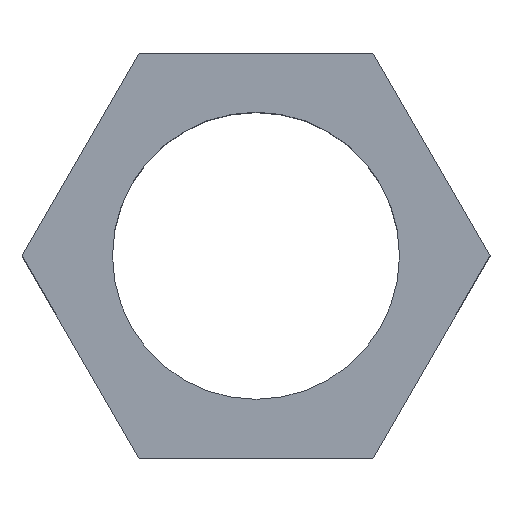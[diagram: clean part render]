
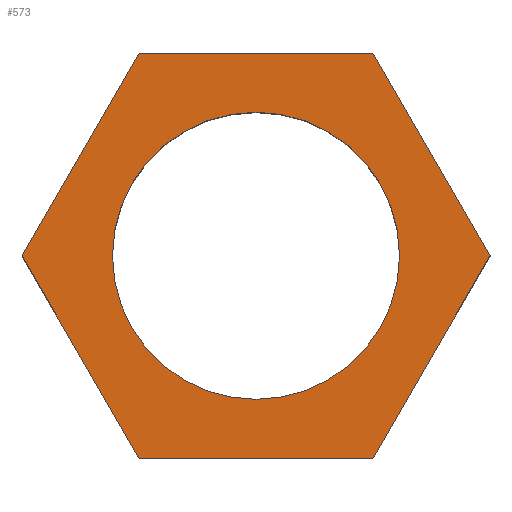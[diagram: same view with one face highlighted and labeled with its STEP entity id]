
A CAD part, top view. The second image highlights one B-rep face of the part: STEP entity #573.
In plain terms, the highlighted planar face has unit normal (0, 0, 1).
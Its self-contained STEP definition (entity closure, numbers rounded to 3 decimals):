
#24 = VERTEX_POINT('',#25);
#25 = CARTESIAN_POINT('',(13.856,0.,13.));
#32 = PLANE('',#33);
#33 = AXIS2_PLACEMENT_3D('',#34,#35,#36);
#34 = CARTESIAN_POINT('',(13.856,0.,0.));
#35 = DIRECTION('',(-0.866,-0.5,0.));
#36 = DIRECTION('',(-0.5,0.866,0.));
#44 = PLANE('',#45);
#45 = AXIS2_PLACEMENT_3D('',#46,#47,#48);
#46 = CARTESIAN_POINT('',(6.928,-12.,0.));
#47 = DIRECTION('',(-0.866,0.5,0.));
#48 = DIRECTION('',(0.5,0.866,0.));
#56 = EDGE_CURVE('',#24,#57,#59,.T.);
#57 = VERTEX_POINT('',#58);
#58 = CARTESIAN_POINT('',(6.928,12.,13.));
#59 = SURFACE_CURVE('',#60,(#64,#71),.PCURVE_S1.);
#60 = LINE('',#61,#62);
#61 = CARTESIAN_POINT('',(13.856,0.,13.));
#62 = VECTOR('',#63,1.);
#63 = DIRECTION('',(-0.5,0.866,0.));
#64 = PCURVE('',#32,#65);
#65 = DEFINITIONAL_REPRESENTATION('',(#66),#70);
#66 = LINE('',#67,#68);
#67 = CARTESIAN_POINT('',(0.,-13.));
#68 = VECTOR('',#69,1.);
#69 = DIRECTION('',(1.,0.));
#70 = ( GEOMETRIC_REPRESENTATION_CONTEXT(2) 
PARAMETRIC_REPRESENTATION_CONTEXT() REPRESENTATION_CONTEXT('2D SPACE',''
  ) );
#71 = PCURVE('',#72,#77);
#72 = PLANE('',#73);
#73 = AXIS2_PLACEMENT_3D('',#74,#75,#76);
#74 = CARTESIAN_POINT('',(0.,0.,13.));
#75 = DIRECTION('',(0.,0.,1.));
#76 = DIRECTION('',(1.,0.,-0.));
#77 = DEFINITIONAL_REPRESENTATION('',(#78),#82);
#78 = LINE('',#79,#80);
#79 = CARTESIAN_POINT('',(13.856,0.));
#80 = VECTOR('',#81,1.);
#81 = DIRECTION('',(-0.5,0.866));
#82 = ( GEOMETRIC_REPRESENTATION_CONTEXT(2) 
PARAMETRIC_REPRESENTATION_CONTEXT() REPRESENTATION_CONTEXT('2D SPACE',''
  ) );
#100 = PLANE('',#101);
#101 = AXIS2_PLACEMENT_3D('',#102,#103,#104);
#102 = CARTESIAN_POINT('',(6.928,12.,0.));
#103 = DIRECTION('',(0.,-1.,0.));
#104 = DIRECTION('',(-1.,0.,0.));
#142 = EDGE_CURVE('',#57,#143,#145,.T.);
#143 = VERTEX_POINT('',#144);
#144 = CARTESIAN_POINT('',(-6.928,12.,13.));
#145 = SURFACE_CURVE('',#146,(#150,#157),.PCURVE_S1.);
#146 = LINE('',#147,#148);
#147 = CARTESIAN_POINT('',(6.928,12.,13.));
#148 = VECTOR('',#149,1.);
#149 = DIRECTION('',(-1.,0.,0.));
#150 = PCURVE('',#100,#151);
#151 = DEFINITIONAL_REPRESENTATION('',(#152),#156);
#152 = LINE('',#153,#154);
#153 = CARTESIAN_POINT('',(0.,-13.));
#154 = VECTOR('',#155,1.);
#155 = DIRECTION('',(1.,0.));
#156 = ( GEOMETRIC_REPRESENTATION_CONTEXT(2) 
PARAMETRIC_REPRESENTATION_CONTEXT() REPRESENTATION_CONTEXT('2D SPACE',''
  ) );
#157 = PCURVE('',#72,#158);
#158 = DEFINITIONAL_REPRESENTATION('',(#159),#163);
#159 = LINE('',#160,#161);
#160 = CARTESIAN_POINT('',(6.928,12.));
#161 = VECTOR('',#162,1.);
#162 = DIRECTION('',(-1.,0.));
#163 = ( GEOMETRIC_REPRESENTATION_CONTEXT(2) 
PARAMETRIC_REPRESENTATION_CONTEXT() REPRESENTATION_CONTEXT('2D SPACE',''
  ) );
#181 = PLANE('',#182);
#182 = AXIS2_PLACEMENT_3D('',#183,#184,#185);
#183 = CARTESIAN_POINT('',(-6.928,12.,0.));
#184 = DIRECTION('',(0.866,-0.5,0.));
#185 = DIRECTION('',(-0.5,-0.866,0.));
#218 = EDGE_CURVE('',#143,#219,#221,.T.);
#219 = VERTEX_POINT('',#220);
#220 = CARTESIAN_POINT('',(-13.856,0.,13.));
#221 = SURFACE_CURVE('',#222,(#226,#233),.PCURVE_S1.);
#222 = LINE('',#223,#224);
#223 = CARTESIAN_POINT('',(-6.928,12.,13.));
#224 = VECTOR('',#225,1.);
#225 = DIRECTION('',(-0.5,-0.866,0.));
#226 = PCURVE('',#181,#227);
#227 = DEFINITIONAL_REPRESENTATION('',(#228),#232);
#228 = LINE('',#229,#230);
#229 = CARTESIAN_POINT('',(0.,-13.));
#230 = VECTOR('',#231,1.);
#231 = DIRECTION('',(1.,0.));
#232 = ( GEOMETRIC_REPRESENTATION_CONTEXT(2) 
PARAMETRIC_REPRESENTATION_CONTEXT() REPRESENTATION_CONTEXT('2D SPACE',''
  ) );
#233 = PCURVE('',#72,#234);
#234 = DEFINITIONAL_REPRESENTATION('',(#235),#239);
#235 = LINE('',#236,#237);
#236 = CARTESIAN_POINT('',(-6.928,12.));
#237 = VECTOR('',#238,1.);
#238 = DIRECTION('',(-0.5,-0.866));
#239 = ( GEOMETRIC_REPRESENTATION_CONTEXT(2) 
PARAMETRIC_REPRESENTATION_CONTEXT() REPRESENTATION_CONTEXT('2D SPACE',''
  ) );
#257 = PLANE('',#258);
#258 = AXIS2_PLACEMENT_3D('',#259,#260,#261);
#259 = CARTESIAN_POINT('',(-13.856,0.,0.));
#260 = DIRECTION('',(0.866,0.5,-0.));
#261 = DIRECTION('',(0.5,-0.866,0.));
#294 = EDGE_CURVE('',#219,#295,#297,.T.);
#295 = VERTEX_POINT('',#296);
#296 = CARTESIAN_POINT('',(-6.928,-12.,13.));
#297 = SURFACE_CURVE('',#298,(#302,#309),.PCURVE_S1.);
#298 = LINE('',#299,#300);
#299 = CARTESIAN_POINT('',(-13.856,0.,13.));
#300 = VECTOR('',#301,1.);
#301 = DIRECTION('',(0.5,-0.866,0.));
#302 = PCURVE('',#257,#303);
#303 = DEFINITIONAL_REPRESENTATION('',(#304),#308);
#304 = LINE('',#305,#306);
#305 = CARTESIAN_POINT('',(0.,-13.));
#306 = VECTOR('',#307,1.);
#307 = DIRECTION('',(1.,0.));
#308 = ( GEOMETRIC_REPRESENTATION_CONTEXT(2) 
PARAMETRIC_REPRESENTATION_CONTEXT() REPRESENTATION_CONTEXT('2D SPACE',''
  ) );
#309 = PCURVE('',#72,#310);
#310 = DEFINITIONAL_REPRESENTATION('',(#311),#315);
#311 = LINE('',#312,#313);
#312 = CARTESIAN_POINT('',(-13.856,0.));
#313 = VECTOR('',#314,1.);
#314 = DIRECTION('',(0.5,-0.866));
#315 = ( GEOMETRIC_REPRESENTATION_CONTEXT(2) 
PARAMETRIC_REPRESENTATION_CONTEXT() REPRESENTATION_CONTEXT('2D SPACE',''
  ) );
#333 = PLANE('',#334);
#334 = AXIS2_PLACEMENT_3D('',#335,#336,#337);
#335 = CARTESIAN_POINT('',(-6.928,-12.,0.));
#336 = DIRECTION('',(0.,1.,0.));
#337 = DIRECTION('',(1.,0.,0.));
#370 = EDGE_CURVE('',#295,#371,#373,.T.);
#371 = VERTEX_POINT('',#372);
#372 = CARTESIAN_POINT('',(6.928,-12.,13.));
#373 = SURFACE_CURVE('',#374,(#378,#385),.PCURVE_S1.);
#374 = LINE('',#375,#376);
#375 = CARTESIAN_POINT('',(-6.928,-12.,13.));
#376 = VECTOR('',#377,1.);
#377 = DIRECTION('',(1.,0.,0.));
#378 = PCURVE('',#333,#379);
#379 = DEFINITIONAL_REPRESENTATION('',(#380),#384);
#380 = LINE('',#381,#382);
#381 = CARTESIAN_POINT('',(0.,-13.));
#382 = VECTOR('',#383,1.);
#383 = DIRECTION('',(1.,0.));
#384 = ( GEOMETRIC_REPRESENTATION_CONTEXT(2) 
PARAMETRIC_REPRESENTATION_CONTEXT() REPRESENTATION_CONTEXT('2D SPACE',''
  ) );
#385 = PCURVE('',#72,#386);
#386 = DEFINITIONAL_REPRESENTATION('',(#387),#391);
#387 = LINE('',#388,#389);
#388 = CARTESIAN_POINT('',(-6.928,-12.));
#389 = VECTOR('',#390,1.);
#390 = DIRECTION('',(1.,0.));
#391 = ( GEOMETRIC_REPRESENTATION_CONTEXT(2) 
PARAMETRIC_REPRESENTATION_CONTEXT() REPRESENTATION_CONTEXT('2D SPACE',''
  ) );
#441 = EDGE_CURVE('',#371,#24,#442,.T.);
#442 = SURFACE_CURVE('',#443,(#447,#454),.PCURVE_S1.);
#443 = LINE('',#444,#445);
#444 = CARTESIAN_POINT('',(6.928,-12.,13.));
#445 = VECTOR('',#446,1.);
#446 = DIRECTION('',(0.5,0.866,0.));
#447 = PCURVE('',#44,#448);
#448 = DEFINITIONAL_REPRESENTATION('',(#449),#453);
#449 = LINE('',#450,#451);
#450 = CARTESIAN_POINT('',(0.,-13.));
#451 = VECTOR('',#452,1.);
#452 = DIRECTION('',(1.,0.));
#453 = ( GEOMETRIC_REPRESENTATION_CONTEXT(2) 
PARAMETRIC_REPRESENTATION_CONTEXT() REPRESENTATION_CONTEXT('2D SPACE',''
  ) );
#454 = PCURVE('',#72,#455);
#455 = DEFINITIONAL_REPRESENTATION('',(#456),#460);
#456 = LINE('',#457,#458);
#457 = CARTESIAN_POINT('',(6.928,-12.));
#458 = VECTOR('',#459,1.);
#459 = DIRECTION('',(0.5,0.866));
#460 = ( GEOMETRIC_REPRESENTATION_CONTEXT(2) 
PARAMETRIC_REPRESENTATION_CONTEXT() REPRESENTATION_CONTEXT('2D SPACE',''
  ) );
#490 = VERTEX_POINT('',#491);
#491 = CARTESIAN_POINT('',(8.5,0.,13.));
#498 = CYLINDRICAL_SURFACE('',#499,8.5);
#499 = AXIS2_PLACEMENT_3D('',#500,#501,#502);
#500 = CARTESIAN_POINT('',(0.,0.,0.));
#501 = DIRECTION('',(-0.,-0.,-1.));
#502 = DIRECTION('',(1.,0.,-0.));
#517 = EDGE_CURVE('',#490,#490,#518,.T.);
#518 = SURFACE_CURVE('',#519,(#524,#531),.PCURVE_S1.);
#519 = CIRCLE('',#520,8.5);
#520 = AXIS2_PLACEMENT_3D('',#521,#522,#523);
#521 = CARTESIAN_POINT('',(0.,0.,13.));
#522 = DIRECTION('',(0.,0.,1.));
#523 = DIRECTION('',(1.,0.,-0.));
#524 = PCURVE('',#498,#525);
#525 = DEFINITIONAL_REPRESENTATION('',(#526),#530);
#526 = LINE('',#527,#528);
#527 = CARTESIAN_POINT('',(-0.,-13.));
#528 = VECTOR('',#529,1.);
#529 = DIRECTION('',(-1.,0.));
#530 = ( GEOMETRIC_REPRESENTATION_CONTEXT(2) 
PARAMETRIC_REPRESENTATION_CONTEXT() REPRESENTATION_CONTEXT('2D SPACE',''
  ) );
#531 = PCURVE('',#72,#532);
#532 = DEFINITIONAL_REPRESENTATION('',(#533),#537);
#533 = CIRCLE('',#534,8.5);
#534 = AXIS2_PLACEMENT_2D('',#535,#536);
#535 = CARTESIAN_POINT('',(0.,0.));
#536 = DIRECTION('',(1.,0.));
#537 = ( GEOMETRIC_REPRESENTATION_CONTEXT(2) 
PARAMETRIC_REPRESENTATION_CONTEXT() REPRESENTATION_CONTEXT('2D SPACE',''
  ) );
#573 = ADVANCED_FACE('',(#574,#582),#72,.T.);
#574 = FACE_BOUND('',#575,.T.);
#575 = EDGE_LOOP('',(#576,#577,#578,#579,#580,#581));
#576 = ORIENTED_EDGE('',*,*,#56,.T.);
#577 = ORIENTED_EDGE('',*,*,#142,.T.);
#578 = ORIENTED_EDGE('',*,*,#218,.T.);
#579 = ORIENTED_EDGE('',*,*,#294,.T.);
#580 = ORIENTED_EDGE('',*,*,#370,.T.);
#581 = ORIENTED_EDGE('',*,*,#441,.T.);
#582 = FACE_BOUND('',#583,.F.);
#583 = EDGE_LOOP('',(#584));
#584 = ORIENTED_EDGE('',*,*,#517,.T.);
